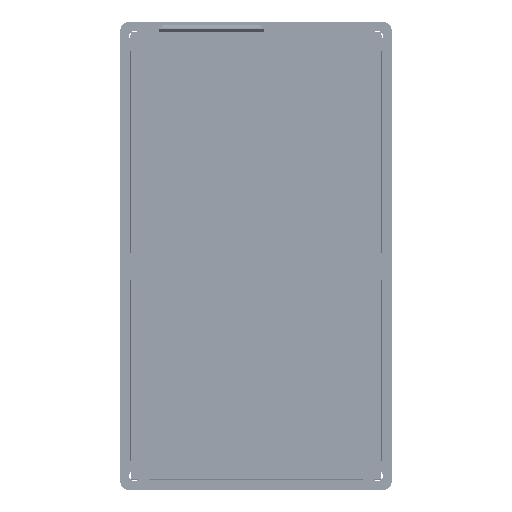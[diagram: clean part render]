
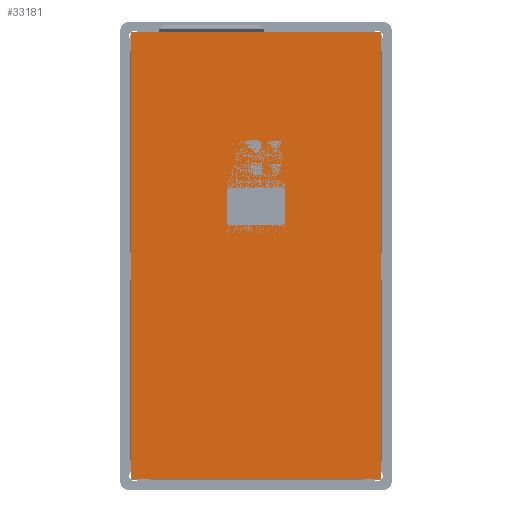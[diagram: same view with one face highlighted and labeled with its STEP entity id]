
A CAD part, top view. The second image highlights one B-rep face of the part: STEP entity #33181.
In plain terms, the highlighted planar face has unit normal (0, 0, 1).
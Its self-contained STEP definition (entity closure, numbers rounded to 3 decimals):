
#33024=DIRECTION('',(0.,-1.,0.));
#33025=VECTOR('',#33024,250.);
#33026=CARTESIAN_POINT('',(-70.,125.,173.));
#33027=LINE('',#33026,#33025);
#33045=DIRECTION('',(-1.,0.,0.));
#33046=VECTOR('',#33045,140.);
#33047=CARTESIAN_POINT('',(70.,125.,173.));
#33048=LINE('',#33047,#33046);
#33066=DIRECTION('',(0.,1.,0.));
#33067=VECTOR('',#33066,250.);
#33068=CARTESIAN_POINT('',(70.,-125.,173.));
#33069=LINE('',#33068,#33067);
#33087=DIRECTION('',(1.,0.,0.));
#33088=VECTOR('',#33087,140.);
#33089=CARTESIAN_POINT('',(-70.,-125.,173.));
#33090=LINE('',#33089,#33088);
#33102=CARTESIAN_POINT('',(-70.,125.,173.));
#33103=VERTEX_POINT('',#33102);
#33104=CARTESIAN_POINT('',(-70.,-125.,173.));
#33105=VERTEX_POINT('',#33104);
#33106=CARTESIAN_POINT('',(70.,125.,173.));
#33107=VERTEX_POINT('',#33106);
#33108=CARTESIAN_POINT('',(70.,-125.,173.));
#33109=VERTEX_POINT('',#33108);
#33170=CARTESIAN_POINT('',(0.,0.,173.));
#33171=DIRECTION('',(0.,0.,1.));
#33172=DIRECTION('',(1.,0.,0.));
#33173=AXIS2_PLACEMENT_3D('',#33170,#33171,#33172);
#33174=PLANE('',#33173);
#33175=ORIENTED_EDGE('',*,*,#33119,.F.);
#33176=ORIENTED_EDGE('',*,*,#33135,.F.);
#33177=ORIENTED_EDGE('',*,*,#33150,.F.);
#33178=ORIENTED_EDGE('',*,*,#33164,.F.);
#33179=EDGE_LOOP('',(#33175,#33176,#33177,#33178));
#33180=FACE_OUTER_BOUND('',#33179,.F.);
#33181=ADVANCED_FACE('',(#33180),#33174,.T.);
#33119=EDGE_CURVE('',#33103,#33105,#33027,.T.);
#33135=EDGE_CURVE('',#33107,#33103,#33048,.T.);
#33150=EDGE_CURVE('',#33109,#33107,#33069,.T.);
#33164=EDGE_CURVE('',#33105,#33109,#33090,.T.);
